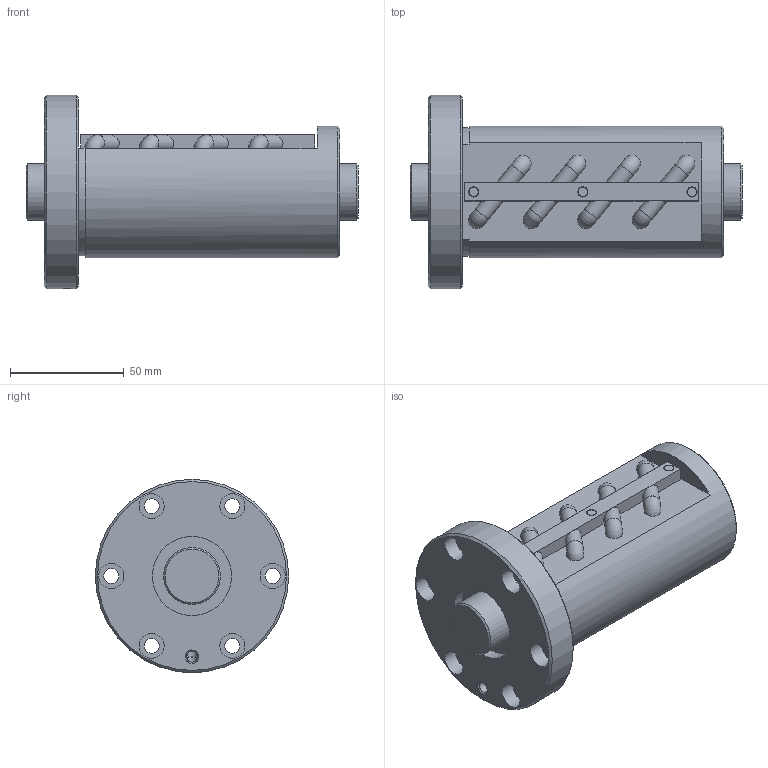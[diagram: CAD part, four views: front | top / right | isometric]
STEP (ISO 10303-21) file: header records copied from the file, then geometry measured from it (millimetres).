
FILE_DESCRIPTION(/* description */ ('STEP AP203'),/* implementation_level */ '2;1');
FILE_NAME(/* name */ 'BIF2508V-10RRG0+146LC0_000',/* time_stamp */ '2024-07-15T08:17:45+02:00',/* author */ ('License CC BY-ND 4.0'),/* organization */ ('CADENAS'),/* preprocessor_version */ 'ST-DEVELOPER v19.3',/* originating_system */ 'PARTsolutions',/* authorisation */ ' ');
FILE_SCHEMA (('CONFIG_CONTROL_DESIGN'));
Length unit declared in the file: millimetre
Products named in the file (3): BIF2508V-10RRG0+146LC0_000; BIF2508V-10RR000 Shaft; BIF2508V-10RR Nut
Assembly tree (2 placements, depth 2):
  BIF2508V-10RRG0+146LC0_000
    BIF2508V-10RR000 Shaft
    BIF2508V-10RR Nut
Bounding box: 146 x 85 x 85 mm (x, y, z)
Volume: 363394.6 mm3; surface area: 62607.3 mm2
Topology: 2 solids, 2 shells, 106 faces, 239 edges, 152 vertices
Faces by surface type: plane 53, cylinder 36, cone 9, torus 8
Full cylindrical faces by diameter (mm): 4 x3, 4.25 x2, 4.5 x3, 4.917 x1, 6.6 x6, 11 x6, 25 x2, 34.8 x2, 58 x1, 85 x1
Entity records: 2970 total; most frequent: CARTESIAN_POINT 616, DIRECTION 514, ORIENTED_EDGE 386, AXIS2_PLACEMENT_3D 227, EDGE_CURVE 193, FACE_BOUND 175, EDGE_LOOP 174, VERTEX_POINT 144
